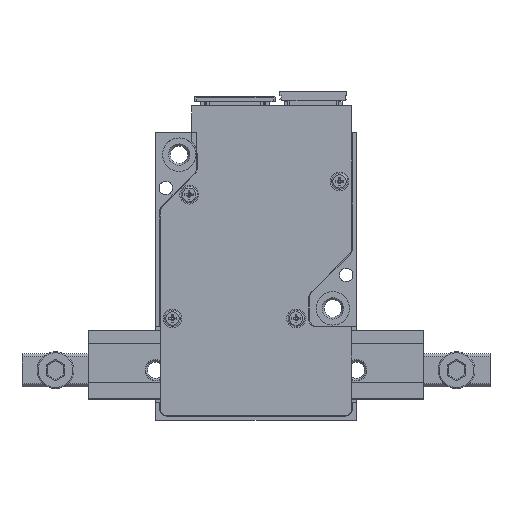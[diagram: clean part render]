
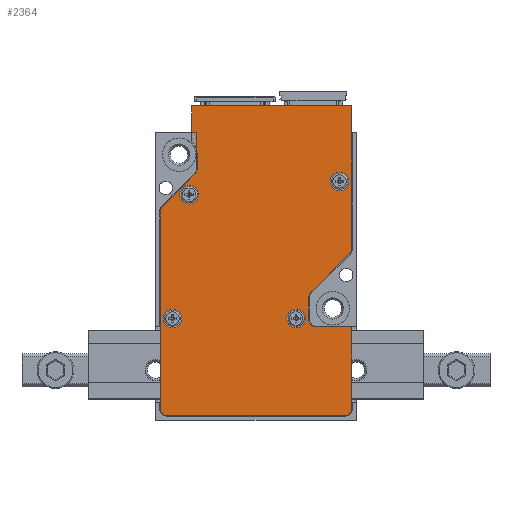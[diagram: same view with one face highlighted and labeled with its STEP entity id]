
A CAD part, top view. The second image highlights one B-rep face of the part: STEP entity #2364.
In plain terms, the highlighted planar face has unit normal (0, 0, 1).
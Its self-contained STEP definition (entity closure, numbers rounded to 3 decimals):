
#1872=FACE_BOUND('',#6154,.T.);
#1873=FACE_BOUND('',#6155,.T.);
#1874=FACE_BOUND('',#6156,.T.);
#1875=FACE_BOUND('',#6157,.T.);
#1876=FACE_BOUND('',#6158,.T.);
#2364=ADVANCED_FACE('',(#1872,#1873,#1874,#1875,#1876),#3537,.F.);
#3537=PLANE('',#28035);
#6154=EDGE_LOOP('',(#9539));
#6155=EDGE_LOOP('',(#9540));
#6156=EDGE_LOOP('',(#9541));
#6157=EDGE_LOOP('',(#9542));
#6158=EDGE_LOOP('',(#9543,#9544,#9545,#9546,#9547,#9548,#9549,#9550,#9551,
#9552,#9553,#9554,#9555,#9556,#9557,#9558,#9559,#9560,#9561));
#7534=CIRCLE('',#28020,2.7);
#7535=CIRCLE('',#28024,1.4);
#7536=CIRCLE('',#28025,1.4);
#7537=CIRCLE('',#28026,1.4);
#7538=CIRCLE('',#28027,1.4);
#7539=CIRCLE('',#28028,1.1);
#7540=CIRCLE('',#28029,0.9);
#7541=CIRCLE('',#28030,1.1);
#7542=CIRCLE('',#28031,0.9);
#7543=CIRCLE('',#28032,0.9);
#7544=CIRCLE('',#28033,0.9);
#7545=CIRCLE('',#28034,1.1);
#9539=ORIENTED_EDGE('',*,*,#18509,.T.);
#9540=ORIENTED_EDGE('',*,*,#18510,.T.);
#9541=ORIENTED_EDGE('',*,*,#18511,.T.);
#9542=ORIENTED_EDGE('',*,*,#18512,.T.);
#9543=ORIENTED_EDGE('',*,*,#18481,.T.);
#9544=ORIENTED_EDGE('',*,*,#18513,.T.);
#9545=ORIENTED_EDGE('',*,*,#18485,.T.);
#9546=ORIENTED_EDGE('',*,*,#18514,.T.);
#9547=ORIENTED_EDGE('',*,*,#18489,.T.);
#9548=ORIENTED_EDGE('',*,*,#18495,.T.);
#9549=ORIENTED_EDGE('',*,*,#18498,.T.);
#9550=ORIENTED_EDGE('',*,*,#18501,.T.);
#9551=ORIENTED_EDGE('',*,*,#18504,.T.);
#9552=ORIENTED_EDGE('',*,*,#18515,.T.);
#9553=ORIENTED_EDGE('',*,*,#18505,.T.);
#9554=ORIENTED_EDGE('',*,*,#18516,.T.);
#9555=ORIENTED_EDGE('',*,*,#18468,.T.);
#9556=ORIENTED_EDGE('',*,*,#18517,.T.);
#9557=ORIENTED_EDGE('',*,*,#18472,.T.);
#9558=ORIENTED_EDGE('',*,*,#18518,.T.);
#9559=ORIENTED_EDGE('',*,*,#18474,.T.);
#9560=ORIENTED_EDGE('',*,*,#18480,.T.);
#9561=ORIENTED_EDGE('',*,*,#18519,.T.);
#15757=VERTEX_POINT('',#41916);
#15758=VERTEX_POINT('',#41918);
#15761=VERTEX_POINT('',#41925);
#15762=VERTEX_POINT('',#41927);
#15763=VERTEX_POINT('',#41931);
#15764=VERTEX_POINT('',#41932);
#15768=VERTEX_POINT('',#41942);
#15769=VERTEX_POINT('',#41946);
#15770=VERTEX_POINT('',#41947);
#15773=VERTEX_POINT('',#41955);
#15774=VERTEX_POINT('',#41956);
#15777=VERTEX_POINT('',#41964);
#15778=VERTEX_POINT('',#41965);
#15782=VERTEX_POINT('',#41975);
#15784=VERTEX_POINT('',#41981);
#15786=VERTEX_POINT('',#41987);
#15788=VERTEX_POINT('',#41993);
#15789=VERTEX_POINT('',#41997);
#15790=VERTEX_POINT('',#41998);
#15793=VERTEX_POINT('',#42006);
#15794=VERTEX_POINT('',#42008);
#15795=VERTEX_POINT('',#42010);
#15796=VERTEX_POINT('',#42012);
#18468=EDGE_CURVE('',#15758,#15757,#21783,.T.);
#18472=EDGE_CURVE('',#15762,#15761,#21787,.T.);
#18474=EDGE_CURVE('',#15763,#15764,#21789,.T.);
#18480=EDGE_CURVE('',#15764,#15768,#21795,.T.);
#18481=EDGE_CURVE('',#15769,#15770,#21796,.T.);
#18485=EDGE_CURVE('',#15773,#15774,#21800,.T.);
#18489=EDGE_CURVE('',#15777,#15778,#21804,.T.);
#18495=EDGE_CURVE('',#15778,#15782,#21810,.T.);
#18498=EDGE_CURVE('',#15782,#15784,#21813,.T.);
#18501=EDGE_CURVE('',#15784,#15786,#7534,.T.);
#18504=EDGE_CURVE('',#15786,#15788,#21817,.T.);
#18505=EDGE_CURVE('',#15789,#15790,#21818,.T.);
#18509=EDGE_CURVE('',#15793,#15793,#7535,.T.);
#18510=EDGE_CURVE('',#15794,#15794,#7536,.T.);
#18511=EDGE_CURVE('',#15795,#15795,#7537,.T.);
#18512=EDGE_CURVE('',#15796,#15796,#7538,.T.);
#18513=EDGE_CURVE('',#15770,#15773,#7539,.T.);
#18514=EDGE_CURVE('',#15774,#15777,#7540,.T.);
#18515=EDGE_CURVE('',#15788,#15789,#7541,.T.);
#18516=EDGE_CURVE('',#15790,#15758,#7542,.T.);
#18517=EDGE_CURVE('',#15757,#15762,#7543,.T.);
#18518=EDGE_CURVE('',#15761,#15763,#7544,.T.);
#18519=EDGE_CURVE('',#15768,#15769,#7545,.T.);
#21783=LINE('',#41917,#24790);
#21787=LINE('',#41926,#24794);
#21789=LINE('',#41930,#24796);
#21795=LINE('',#41943,#24802);
#21796=LINE('',#41945,#24803);
#21800=LINE('',#41954,#24807);
#21804=LINE('',#41963,#24811);
#21810=LINE('',#41976,#24817);
#21813=LINE('',#41982,#24820);
#21817=LINE('',#41994,#24824);
#21818=LINE('',#41996,#24825);
#24790=VECTOR('',#31212,1.);
#24794=VECTOR('',#31218,1.);
#24796=VECTOR('',#31222,1.);
#24802=VECTOR('',#31230,1.);
#24803=VECTOR('',#31233,1.);
#24807=VECTOR('',#31239,1.);
#24811=VECTOR('',#31245,1.);
#24817=VECTOR('',#31253,1.);
#24820=VECTOR('',#31258,1.);
#24824=VECTOR('',#31270,1.);
#24825=VECTOR('',#31273,1.);
#28020=AXIS2_PLACEMENT_3D('',#41988,#31264,#31265);
#28024=AXIS2_PLACEMENT_3D('',#42005,#31279,#31280);
#28025=AXIS2_PLACEMENT_3D('',#42007,#31281,#31282);
#28026=AXIS2_PLACEMENT_3D('',#42009,#31283,#31284);
#28027=AXIS2_PLACEMENT_3D('',#42011,#31285,#31286);
#28028=AXIS2_PLACEMENT_3D('',#42013,#31287,#31288);
#28029=AXIS2_PLACEMENT_3D('',#42014,#31289,#31290);
#28030=AXIS2_PLACEMENT_3D('',#42015,#31291,#31292);
#28031=AXIS2_PLACEMENT_3D('',#42016,#31293,#31294);
#28032=AXIS2_PLACEMENT_3D('',#42017,#31295,#31296);
#28033=AXIS2_PLACEMENT_3D('',#42018,#31297,#31298);
#28034=AXIS2_PLACEMENT_3D('',#42019,#31299,#31300);
#28035=AXIS2_PLACEMENT_3D('',#42020,#31301,#31302);
#31212=DIRECTION('',(0.,-1.,0.));
#31218=DIRECTION('',(1.,0.,0.));
#31222=DIRECTION('',(0.,1.,0.));
#31230=DIRECTION('',(-1.,0.,0.));
#31233=DIRECTION('',(0.,1.,0.));
#31239=DIRECTION('',(0.707,0.707,0.));
#31245=DIRECTION('',(0.,1.,0.));
#31253=DIRECTION('',(-1.,0.,0.));
#31258=DIRECTION('',(0.,-1.,0.));
#31264=DIRECTION('',(0.,0.,-1.));
#31265=DIRECTION('',(1.,0.,0.));
#31270=DIRECTION('',(0.,-1.,0.));
#31273=DIRECTION('',(-0.707,-0.707,0.));
#31279=DIRECTION('',(0.,0.,-1.));
#31280=DIRECTION('',(-1.,0.,0.));
#31281=DIRECTION('',(0.,0.,-1.));
#31282=DIRECTION('',(-1.,0.,0.));
#31283=DIRECTION('',(0.,0.,-1.));
#31284=DIRECTION('',(-1.,0.,0.));
#31285=DIRECTION('',(0.,0.,-1.));
#31286=DIRECTION('',(-1.,0.,0.));
#31287=DIRECTION('',(0.,0.,-1.));
#31288=DIRECTION('',(-1.,0.,0.));
#31289=DIRECTION('',(0.,0.,1.));
#31290=DIRECTION('',(-1.,0.,0.));
#31291=DIRECTION('',(0.,0.,-1.));
#31292=DIRECTION('',(-1.,0.,0.));
#31293=DIRECTION('',(0.,0.,1.));
#31294=DIRECTION('',(-1.,0.,0.));
#31295=DIRECTION('',(0.,0.,1.));
#31296=DIRECTION('',(-1.,0.,0.));
#31297=DIRECTION('',(0.,0.,1.));
#31298=DIRECTION('',(-1.,0.,0.));
#31299=DIRECTION('',(0.,0.,-1.));
#31300=DIRECTION('',(-1.,0.,0.));
#31301=DIRECTION('',(0.,0.,-1.));
#31302=DIRECTION('',(-1.,0.,0.));
#41916=CARTESIAN_POINT('',(-14.3,1.6,0.1));
#41917=CARTESIAN_POINT('',(-14.3,31.643,0.1));
#41918=CARTESIAN_POINT('',(-14.3,31.271,0.1));
#41925=CARTESIAN_POINT('',(13.4,0.7,0.1));
#41926=CARTESIAN_POINT('',(-14.3,0.7,0.1));
#41927=CARTESIAN_POINT('',(-13.4,0.7,0.1));
#41930=CARTESIAN_POINT('',(14.3,0.7,0.1));
#41931=CARTESIAN_POINT('',(14.3,1.6,0.1));
#41932=CARTESIAN_POINT('',(14.3,13.95,0.1));
#41942=CARTESIAN_POINT('',(9.,13.95,0.1));
#41943=CARTESIAN_POINT('',(14.3,13.95,0.1));
#41945=CARTESIAN_POINT('',(7.9,13.95,0.1));
#41946=CARTESIAN_POINT('',(7.9,15.05,0.1));
#41947=CARTESIAN_POINT('',(7.9,18.315,0.1));
#41954=CARTESIAN_POINT('',(7.9,18.771,0.1));
#41955=CARTESIAN_POINT('',(8.222,19.093,0.1));
#41956=CARTESIAN_POINT('',(14.036,24.907,0.1));
#41963=CARTESIAN_POINT('',(14.3,25.171,0.1));
#41964=CARTESIAN_POINT('',(14.3,25.544,0.1));
#41965=CARTESIAN_POINT('',(14.3,47.,0.1));
#41975=CARTESIAN_POINT('',(-9.6,47.,0.1));
#41976=CARTESIAN_POINT('',(14.3,47.,0.1));
#41981=CARTESIAN_POINT('',(-9.6,41.618,0.1));
#41982=CARTESIAN_POINT('',(-9.6,47.,0.1));
#41987=CARTESIAN_POINT('',(-8.8,39.7,0.1));
#41988=CARTESIAN_POINT('',(-11.5,39.7,0.1));
#41993=CARTESIAN_POINT('',(-8.8,37.599,0.1));
#41994=CARTESIAN_POINT('',(-8.8,39.7,0.1));
#41996=CARTESIAN_POINT('',(-8.8,37.143,0.1));
#41997=CARTESIAN_POINT('',(-9.122,36.821,0.1));
#41998=CARTESIAN_POINT('',(-14.036,31.907,0.1));
#42005=CARTESIAN_POINT('',(12.5,35.7,0.1));
#42006=CARTESIAN_POINT('',(11.1,35.7,0.1));
#42007=CARTESIAN_POINT('',(6.,15.2,0.1));
#42008=CARTESIAN_POINT('',(4.6,15.2,0.1));
#42009=CARTESIAN_POINT('',(-10.,33.7,0.1));
#42010=CARTESIAN_POINT('',(-11.4,33.7,0.1));
#42011=CARTESIAN_POINT('',(-12.5,15.2,0.1));
#42012=CARTESIAN_POINT('',(-13.9,15.2,0.1));
#42013=CARTESIAN_POINT('',(9.,18.315,0.1));
#42014=CARTESIAN_POINT('',(13.4,25.544,0.1));
#42015=CARTESIAN_POINT('',(-9.9,37.599,0.1));
#42016=CARTESIAN_POINT('',(-13.4,31.271,0.1));
#42017=CARTESIAN_POINT('',(-13.4,1.6,0.1));
#42018=CARTESIAN_POINT('',(13.4,1.6,0.1));
#42019=CARTESIAN_POINT('',(9.,15.05,0.1));
#42020=CARTESIAN_POINT('',(-11.5,39.7,0.1));
